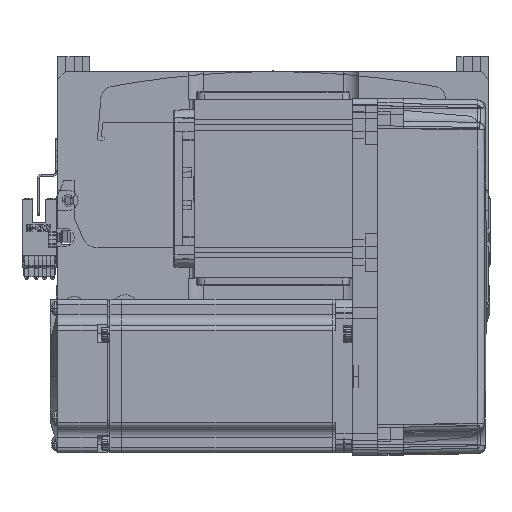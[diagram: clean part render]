
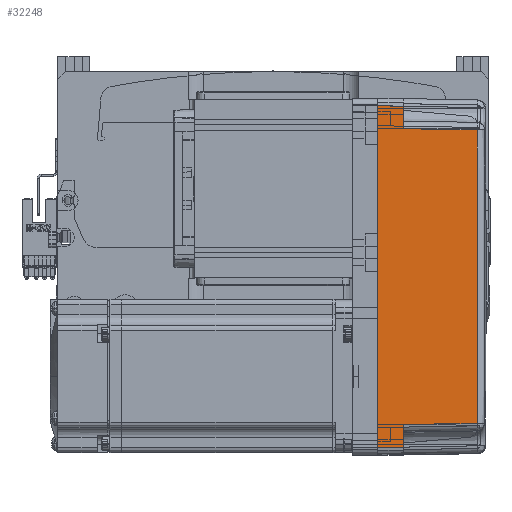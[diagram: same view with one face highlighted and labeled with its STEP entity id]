
A CAD part, top view. The second image highlights one B-rep face of the part: STEP entity #32248.
In plain terms, the highlighted planar face has unit normal (0.018, 0, 1) as drawn and (0, 1, 0.017) by its records, which use the part's own axes.
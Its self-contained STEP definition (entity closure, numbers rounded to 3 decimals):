
#1552 = CARTESIAN_POINT ( 'NONE',  ( 0., 36., 0. ) ) ;
#3042 = EDGE_CURVE ( 'NONE', #52154, #21226, #49089, .T. ) ;
#3127 = VECTOR ( 'NONE', #37859, 1000. ) ;
#4303 = ORIENTED_EDGE ( 'NONE', *, *, #9967, .F. ) ;
#4444 = DIRECTION ( 'NONE',  ( 0., -0.017, 1. ) ) ;
#5659 = DIRECTION ( 'NONE',  ( 1., 0., 0. ) ) ;
#9644 = PLANE ( 'NONE',  #55978 ) ;
#9885 = VERTEX_POINT ( 'NONE', #33726 ) ;
#9967 = EDGE_CURVE ( 'NONE', #52154, #27535, #53919, .T. ) ;
#11602 = CARTESIAN_POINT ( 'NONE',  ( 70., 35.825, 10. ) ) ;
#11684 = EDGE_LOOP ( 'NONE', ( #65540, #27597, #60601, #38014, #22162, #24727, #19527, #4303 ) ) ;
#14918 = CARTESIAN_POINT ( 'NONE',  ( -57.495, 35.32, 38.985 ) ) ;
#15159 = DIRECTION ( 'NONE',  ( 0.017, -0.017, 1. ) ) ;
#15396 = CARTESIAN_POINT ( 'NONE',  ( -19.165, 35.316, 39.181 ) ) ;
#15835 = LINE ( 'NONE', #53123, #25982 ) ;
#19527 = ORIENTED_EDGE ( 'NONE', *, *, #28172, .F. ) ;
#21226 = VERTEX_POINT ( 'NONE', #54527 ) ;
#22162 = ORIENTED_EDGE ( 'NONE', *, *, #49031, .T. ) ;
#23044 = CARTESIAN_POINT ( 'NONE',  ( 57.495, 35.32, 38.985 ) ) ;
#23940 = CARTESIAN_POINT ( 'NONE',  ( -57.495, 35.32, 38.985 ) ) ;
#24488 = EDGE_CURVE ( 'NONE', #41727, #59528, #15835, .T. ) ;
#24727 = ORIENTED_EDGE ( 'NONE', *, *, #65720, .T. ) ;
#25982 = VECTOR ( 'NONE', #58598, 1000. ) ;
#26054 = LINE ( 'NONE', #70230, #3127 ) ;
#27535 = VERTEX_POINT ( 'NONE', #52342 ) ;
#27597 = ORIENTED_EDGE ( 'NONE', *, *, #68496, .T. ) ;
#28172 = EDGE_CURVE ( 'NONE', #27535, #34285, #26054, .T. ) ;
#31634 = CARTESIAN_POINT ( 'NONE',  ( 70., 36., 0. ) ) ;
#31732 = VECTOR ( 'NONE', #43591, 1000. ) ;
#31908 = CARTESIAN_POINT ( 'NONE',  ( 57.495, 35.32, 38.985 ) ) ;
#32248 = ADVANCED_FACE ( 'NONE', ( #69196 ), #9644, .T. ) ;
#33261 = DIRECTION ( 'NONE',  ( 1., 0., 0. ) ) ;
#33726 = CARTESIAN_POINT ( 'NONE',  ( 58., 35.825, 10. ) ) ;
#34285 = VERTEX_POINT ( 'NONE', #58011 ) ;
#36805 = VECTOR ( 'NONE', #5659, 1000. ) ;
#37284 = CARTESIAN_POINT ( 'NONE',  ( 70., 35.825, 10. ) ) ;
#37859 = DIRECTION ( 'NONE',  ( -0.017, -0.017, 1. ) ) ;
#37876 = VECTOR ( 'NONE', #33261, 1000. ) ;
#38014 = ORIENTED_EDGE ( 'NONE', *, *, #46210, .T. ) ;
#41529 = VERTEX_POINT ( 'NONE', #23044 ) ;
#41727 = VERTEX_POINT ( 'NONE', #63774 ) ;
#43591 = DIRECTION ( 'NONE',  ( 0.017, 0.017, -1. ) ) ;
#46210 = EDGE_CURVE ( 'NONE', #59528, #41529, #46306, .T. ) ;
#46306 = B_SPLINE_CURVE_WITH_KNOTS ( 'NONE', 3,
 ( #14918, #15396, #47020, #31908 ),
 .UNSPECIFIED., .F., .F.,
 ( 4, 4 ),
 ( 0., 1. ),
 .UNSPECIFIED. ) ;
#47020 = CARTESIAN_POINT ( 'NONE',  ( 19.165, 35.316, 39.181 ) ) ;
#47439 = DIRECTION ( 'NONE',  ( 0., 1., 0.017 ) ) ;
#48377 = DIRECTION ( 'NONE',  ( 1., 0., 0. ) ) ;
#49031 = EDGE_CURVE ( 'NONE', #41529, #9885, #69811, .T. ) ;
#49089 = LINE ( 'NONE', #52921, #60103 ) ;
#52154 = VERTEX_POINT ( 'NONE', #66955 ) ;
#52342 = CARTESIAN_POINT ( 'NONE',  ( 67., 36., 0. ) ) ;
#52921 = CARTESIAN_POINT ( 'NONE',  ( -67., 36., 0. ) ) ;
#53123 = CARTESIAN_POINT ( 'NONE',  ( -58., 35.825, 10. ) ) ;
#53919 = LINE ( 'NONE', #1552, #37876 ) ;
#54527 = CARTESIAN_POINT ( 'NONE',  ( -66.826, 35.825, 10. ) ) ;
#55978 = AXIS2_PLACEMENT_3D ( 'NONE', #31634, #47439, #4444 ) ;
#57131 = LINE ( 'NONE', #11602, #36805 ) ;
#58011 = CARTESIAN_POINT ( 'NONE',  ( 66.826, 35.825, 10. ) ) ;
#58598 = DIRECTION ( 'NONE',  ( 0.017, -0.017, 1. ) ) ;
#59528 = VERTEX_POINT ( 'NONE', #23940 ) ;
#60103 = VECTOR ( 'NONE', #15159, 1000. ) ;
#60115 = CARTESIAN_POINT ( 'NONE',  ( 57.495, 35.32, 38.985 ) ) ;
#60601 = ORIENTED_EDGE ( 'NONE', *, *, #24488, .T. ) ;
#63774 = CARTESIAN_POINT ( 'NONE',  ( -58., 35.825, 10. ) ) ;
#65540 = ORIENTED_EDGE ( 'NONE', *, *, #3042, .T. ) ;
#65720 = EDGE_CURVE ( 'NONE', #9885, #34285, #69654, .T. ) ;
#66955 = CARTESIAN_POINT ( 'NONE',  ( -67., 36., 0. ) ) ;
#67133 = VECTOR ( 'NONE', #48377, 1000. ) ;
#68496 = EDGE_CURVE ( 'NONE', #21226, #41727, #57131, .T. ) ;
#69196 = FACE_OUTER_BOUND ( 'NONE', #11684, .T. ) ;
#69654 = LINE ( 'NONE', #37284, #67133 ) ;
#69811 = LINE ( 'NONE', #60115, #31732 ) ;
#70230 = CARTESIAN_POINT ( 'NONE',  ( 67.001, 36.001, -0.052 ) ) ;
